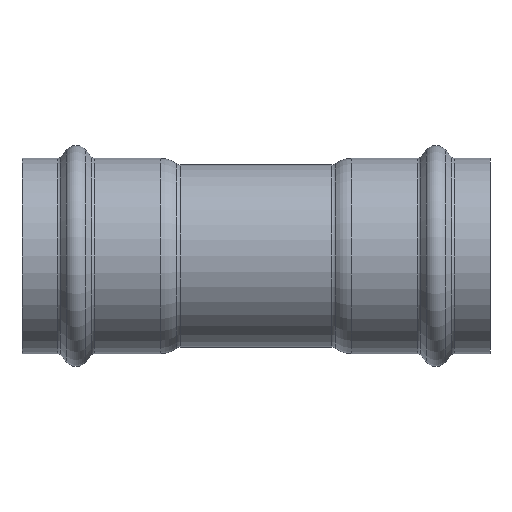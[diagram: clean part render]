
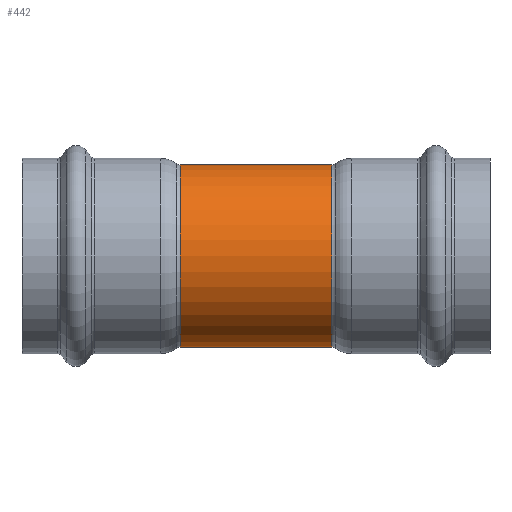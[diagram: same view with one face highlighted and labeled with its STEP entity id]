
A CAD part, front view. The second image highlights one B-rep face of the part: STEP entity #442.
In plain terms, the highlighted cylindrical face has radius 27 mm (diameter 54 mm), a partial arc.
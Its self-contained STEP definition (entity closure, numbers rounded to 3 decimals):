
#304 = CARTESIAN_POINT ( 'NONE',  ( -22.484, 0., 27. ) ) ;
#311 = VECTOR ( 'NONE', #5055, 1000. ) ;
#378 = AXIS2_PLACEMENT_3D ( 'NONE', #3108, #682, #3531 ) ;
#442 = ADVANCED_FACE ( 'NONE', ( #919 ), #1898, .T. ) ;
#447 = VERTEX_POINT ( 'NONE', #4676 ) ;
#682 = DIRECTION ( 'NONE',  ( -1., 0., 0. ) ) ;
#727 = DIRECTION ( 'NONE',  ( -1., 0., 0. ) ) ;
#848 = VERTEX_POINT ( 'NONE', #1103 ) ;
#919 = FACE_OUTER_BOUND ( 'NONE', #3319, .T. ) ;
#940 = CIRCLE ( 'NONE', #378, 27. ) ;
#1103 = CARTESIAN_POINT ( 'NONE',  ( 22.484, 0., -27. ) ) ;
#1200 = AXIS2_PLACEMENT_3D ( 'NONE', #3155, #727, #3574 ) ;
#1341 = VECTOR ( 'NONE', #3738, 1000. ) ;
#1401 = LINE ( 'NONE', #2101, #311 ) ;
#1487 = LINE ( 'NONE', #4549, #1341 ) ;
#1675 = AXIS2_PLACEMENT_3D ( 'NONE', #4619, #4701, #4413 ) ;
#1898 = CYLINDRICAL_SURFACE ( 'NONE', #1675, 27. ) ;
#2101 = CARTESIAN_POINT ( 'NONE',  ( -17.486, 0., 27. ) ) ;
#2113 = ORIENTED_EDGE ( 'NONE', *, *, #2913, .F. ) ;
#2403 = CARTESIAN_POINT ( 'NONE',  ( 22.484, 0., 27. ) ) ;
#2518 = EDGE_CURVE ( 'NONE', #848, #3795, #4510, .T. ) ;
#2747 = ORIENTED_EDGE ( 'NONE', *, *, #3125, .F. ) ;
#2870 = ORIENTED_EDGE ( 'NONE', *, *, #2518, .T. ) ;
#2913 = EDGE_CURVE ( 'NONE', #848, #447, #1487, .T. ) ;
#3108 = CARTESIAN_POINT ( 'NONE',  ( -22.484, 0., 0. ) ) ;
#3125 = EDGE_CURVE ( 'NONE', #447, #4344, #940, .T. ) ;
#3155 = CARTESIAN_POINT ( 'NONE',  ( 22.484, 0., 0. ) ) ;
#3319 = EDGE_LOOP ( 'NONE', ( #2113, #2870, #4896, #2747 ) ) ;
#3531 = DIRECTION ( 'NONE',  ( 0., 0., 1. ) ) ;
#3574 = DIRECTION ( 'NONE',  ( 0., 0., 1. ) ) ;
#3738 = DIRECTION ( 'NONE',  ( -1., 0., 0. ) ) ;
#3795 = VERTEX_POINT ( 'NONE', #2403 ) ;
#4344 = VERTEX_POINT ( 'NONE', #304 ) ;
#4413 = DIRECTION ( 'NONE',  ( 0., 0., 1. ) ) ;
#4510 = CIRCLE ( 'NONE', #1200, 27. ) ;
#4549 = CARTESIAN_POINT ( 'NONE',  ( -17.486, 0., -27. ) ) ;
#4619 = CARTESIAN_POINT ( 'NONE',  ( -17.486, 0., 0. ) ) ;
#4676 = CARTESIAN_POINT ( 'NONE',  ( -22.484, 0., -27. ) ) ;
#4701 = DIRECTION ( 'NONE',  ( -1., 0., 0. ) ) ;
#4738 = EDGE_CURVE ( 'NONE', #3795, #4344, #1401, .T. ) ;
#4896 = ORIENTED_EDGE ( 'NONE', *, *, #4738, .T. ) ;
#5055 = DIRECTION ( 'NONE',  ( -1., 0., 0. ) ) ;
